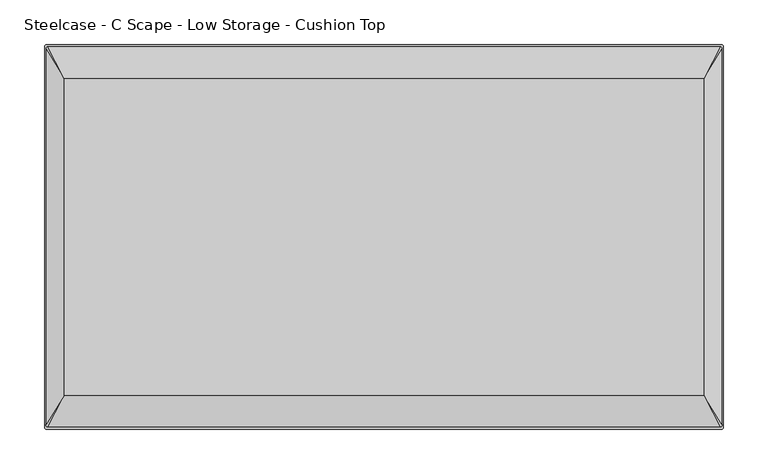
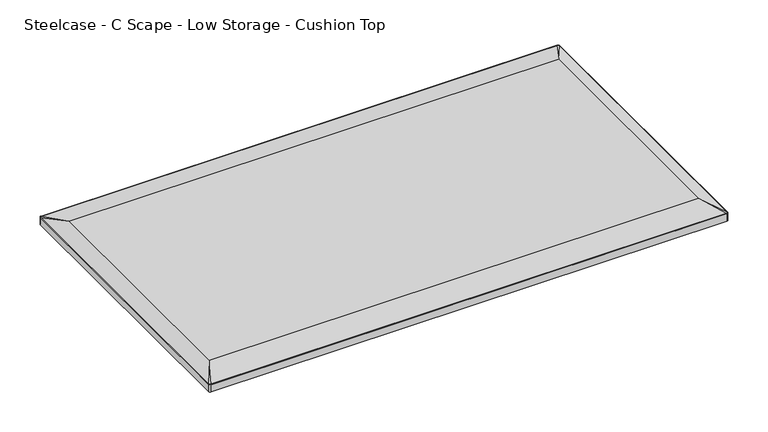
"""IFC4 building model written with IfcOpenShell, lengths in millimetres: furniture geometry, Steelcase - C Scape - Low Storage - Cushion Top : 17D x 30W."""

from ifc_helpers import new_model, si_unit, point, frame, frame_2d, origin, place, context, project, spatial, polyline, circle_curve, trimmed, segment, composite_curve, outline, extrude, source, transform, mapped, element, save
from ifc_brep_helpers import plane_surface, spline_surface, advanced_brep


def steelcase_c_scape_low_storage_cushion_top_557f994b(model_context):
    return source(origin(), model_context, "Body", "SolidModel", [
        extrude(outline(composite_curve([segment(trimmed(circle_curve(frame_2d((759.46, 213.36)), 2.54), [point((759.46, 215.9))], [point((762.0, 213.36))], False, "CARTESIAN"), True, "CONTINUOUS"), segment(polyline([(762.0, 213.36), (762.0, -213.36)]), True, "CONTINUOUS"), segment(trimmed(circle_curve(frame_2d((759.46, -213.36)), 2.54), [point((762.0, -213.36))], [point((759.46, -215.9))], False, "CARTESIAN"), True, "CONTINUOUS"), segment(polyline([(759.46, -215.9), (2.54, -215.9)]), True, "CONTINUOUS"), segment(trimmed(circle_curve(frame_2d((2.54, -213.36)), 2.54), [point((2.54, -215.9))], [point((0.0, -213.36))], False, "CARTESIAN"), True, "CONTINUOUS"), segment(polyline([(0.0, -213.36), (0.0, 213.36)]), True, "CONTINUOUS"), segment(trimmed(circle_curve(frame_2d((2.54, 213.36)), 2.54), [point((0.0, 213.36))], [point((2.54, 215.9))], False, "CARTESIAN"), True, "CONTINUOUS"), segment(polyline([(2.54, 215.9), (759.46, 215.9)]), True, "CONTINUOUS")], self_intersect=False)), frame((0.0, 0.0, 599.44), z_axis=(0.0, 0.0, 1.0), x_axis=(1.0, 0.0, 0.0)), (0.0, 0.0, 1.0), 10.9220174),
        advanced_brep(
        [(759.46, 215.9, 610.3620174), (762.0, 213.36, 610.3620174), (762.0, -213.36, 610.3620174), (759.46, -215.9, 610.3620174), (2.54, -215.9, 610.3620174), (0.0, -213.36, 610.3620174), (0.0, 213.36, 610.3620174), (2.54, 215.9, 610.3620174), (739.902, 177.5206021, 618.4900097), (22.0725989, 177.5206021, 618.4900097), (22.0725989, -177.5206021, 618.4900097), (739.902, -177.5206021, 618.4900097)],
        [
            (0, 1, circle_curve(frame((759.46, 213.36, 610.3620174), z_axis=(0.0, 0.0, -1.0), x_axis=(1.0, 0.0, 0.0)), 2.54)),
            (1, 2),
            (2, 3, circle_curve(frame((759.46, -213.36, 610.3620174), z_axis=(0.0, 0.0, -1.0), x_axis=(1.0, 0.0, 0.0)), 2.54)),
            (3, 4),
            (4, 5, circle_curve(frame((2.54, -213.36, 610.3620174), z_axis=(0.0, 0.0, -1.0), x_axis=(1.0, 0.0, 0.0)), 2.54)),
            (5, 6),
            (6, 7, circle_curve(frame((2.54, 213.36, 610.3620174), z_axis=(0.0, 0.0, -1.0), x_axis=(1.0, 0.0, 0.0)), 2.54)),
            (7, 0),
            (8, 9),
            (9, 10),
            (10, 11),
            (11, 8),
            (8, 0),
            (7, 9),
            (9, 6),
            (5, 10),
            (10, 4),
            (3, 11),
            (11, 2),
            (1, 8),
        ],
        [
            plane_surface(frame((381.0, 0.0, 610.3620174), z_axis=(0.0, 0.0, -1.0), x_axis=(-1.0, 0.0, 0.0))),
            plane_surface(frame((380.9872995, 0.0, 618.4900097), z_axis=(0.0, 0.0, 1.0), x_axis=(-1.0, 0.0, 0.0))),
            plane_surface(frame((380.9872995, 177.5206021, 618.4900097), z_axis=(0.0, 0.20718484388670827, 0.9783018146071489), x_axis=(1.0, 0.0, 0.0))),
            plane_surface(frame((22.0725989, 0.0, 618.4900097), z_axis=(-0.3455549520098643, 0.0, 0.9383985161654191), x_axis=(0.0, 1.0, 0.0))),
            plane_surface(frame((380.9872995, -177.5206021, 618.4900097), z_axis=(0.0, -0.20718484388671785, 0.9783018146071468), x_axis=(-1.0, 0.0, 0.0))),
            plane_surface(frame((739.902, 0.0, 618.4900097), z_axis=(0.3452051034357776, 0.0, 0.9385272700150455), x_axis=(0.0, -1.0, 0.0))),
            spline_surface(2, 1, [[(739.902, 177.5206021, 618.4900097), (759.46, 215.9, 610.3620174)], [(739.902, 177.5206021, 618.4900097), (762.0, 215.90000000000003, 610.3620174)], [(739.902, 177.5206021, 618.4900097), (762.0, 213.36, 610.3620174)]], [3, 3], [2, 2], [0.0, 1.0], [0.0, 1.0], weights=[[1.0, 1.0], [0.7071067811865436, 0.7071067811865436], [1.0, 1.0]]),
            spline_surface(2, 1, [[(739.902, -177.5206021, 618.4900097), (762.0, -213.36, 610.3620174)], [(739.902, -177.5206021, 618.4900097), (762.0, -215.89999999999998, 610.3620174)], [(739.902, -177.5206021, 618.4900097), (759.46, -215.9, 610.3620174)]], [3, 3], [2, 2], [0.0, 1.0], [0.0, 1.0], weights=[[1.0, 1.0], [0.7071067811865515, 0.7071067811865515], [1.0, 1.0]]),
            spline_surface(2, 1, [[(22.0725989, -177.5206021, 618.4900097), (2.54, -215.9, 610.3620174)], [(22.0725989, -177.5206021, 618.4900097), (7.993605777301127e-15, -215.9, 610.3620174)], [(22.0725989, -177.5206021, 618.4900097), (0.0, -213.36, 610.3620174)]], [3, 3], [2, 2], [0.0, 1.0], [0.0, 1.0], weights=[[1.0, 1.0], [0.7071067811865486, 0.7071067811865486], [1.0, 1.0]]),
            spline_surface(2, 1, [[(22.0725989, 177.5206021, 618.4900097), (0.0, 213.36, 610.3620174)], [(22.0725989, 177.5206021, 618.4900097), (-8.43769498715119e-15, 215.9, 610.3620174)], [(22.0725989, 177.5206021, 618.4900097), (2.54, 215.9, 610.3620174)]], [3, 3], [2, 2], [0.0, 1.0], [0.0, 1.0], weights=[[1.0, 1.0], [0.7071067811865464, 0.7071067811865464], [1.0, 1.0]]),
        ],
        [
            (0, [[1, 2, 3, 4, 5, 6, 7, 8]]),
            (1, [[9, 10, 11, 12]]),
            (2, [[-9, 13, -8, 14]]),
            (3, [[-10, 15, -6, 16]]),
            (4, [[-11, 17, -4, 18]]),
            (5, [[-12, 19, -2, 20]]),
            (6, [[-1, -13, -20]]),
            (7, [[-3, -19, -18]]),
            (8, [[-5, -17, -16]]),
            (9, [[-7, -15, -14]]),
        ],
    ),
    ])


if __name__ == "__main__":
    model = new_model("IFC4")
    model_context = context("Model", 3, world=origin())
    ifc_project = project(units=[si_unit("LENGTHUNIT", "METRE", prefix="MILLI")], contexts=[model_context])
    site = spatial("IfcSite", under=ifc_project)
    building = spatial("IfcBuilding", under=site)
    placement = place(None, origin())
    steelcase_c_scape_low_storage_cushion_top_shape = steelcase_c_scape_low_storage_cushion_top_557f994b(model_context)
    element("IfcFurniture", 1, ObjectType="Steelcase - C Scape - Low Storage - Cushion Top : 17D x 30W", at=placement, inside=building, context=model_context, shape_type="MappedRepresentation", body=[
        mapped(steelcase_c_scape_low_storage_cushion_top_shape, transform((0.0, 0.0, 0.0), x_axis=(1.0, 0.0, 0.0), y_axis=(0.0, 1.0, 0.0), z_axis=(0.0, 0.0, 1.0))),
    ])
    save(model, "model.ifc")
